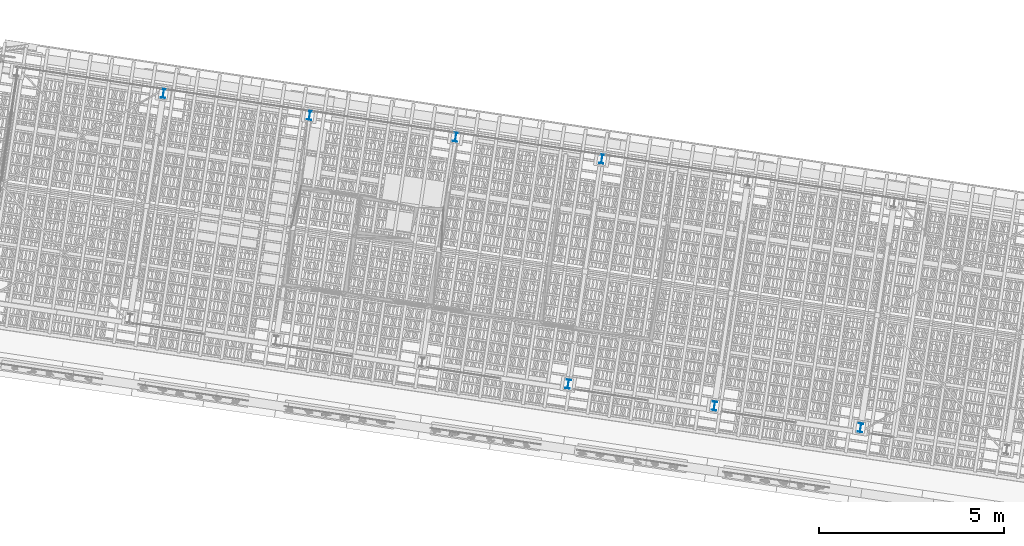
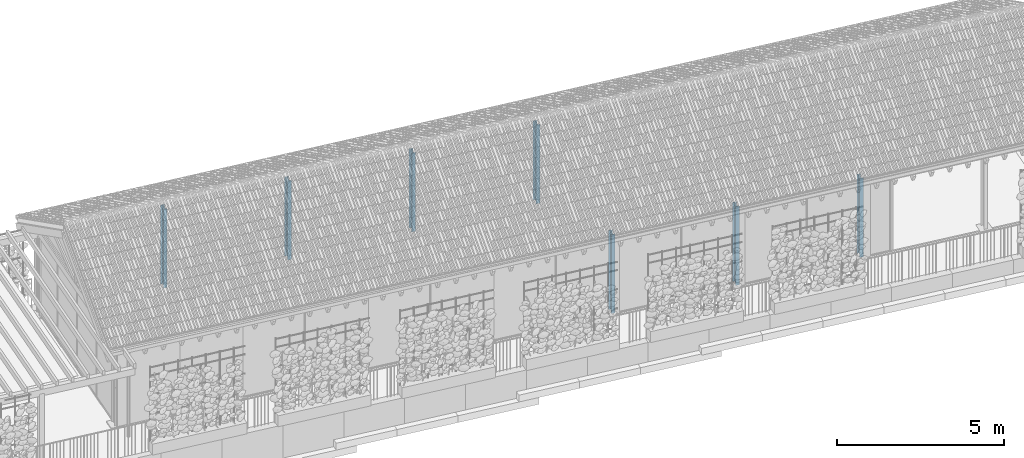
# One storey, part 3 of 128: 7 columns.
"""IFC4 building model written with IfcOpenShell, lengths in metres."""

from ifc_helpers import new_model, si_unit, direction, frame, origin_with_axes, place, context, subcontext, project, spatial, i_section, extrude, material, material_profile, profile_set, profile_usage, type_object, element, save


model = new_model("IFC4")

# Units and contexts
model_context = context("Model", 3, precision=1e-05, world=origin_with_axes(), true_north=direction((0.0, 1.0)))
body_context = subcontext(model_context, "Body", "Model", "MODEL_VIEW")
ifc_project = project(units=[si_unit("VOLUMEUNIT", "CUBIC_METRE"), si_unit("LENGTHUNIT", "METRE"), si_unit("AREAUNIT", "SQUARE_METRE")], contexts=[model_context])

# Site, building, storey
site_placement = place(None, origin_with_axes())
site = spatial("IfcSite", under=ifc_project, at=site_placement, Name="Lares · Rua das Mercês · artigo 4771")
building_placement = place(site_placement, frame((15.0, 9.7, 13.9), z_axis=(0.0, 0.0, 1.0), x_axis=(0.989015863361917, -0.147809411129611, 0.0)))
building = spatial("IfcBuilding", under=site, at=building_placement, Name="Casa Sobreposta")
storey_placement = place(building_placement, origin_with_axes())
storey = spatial("IfcBuildingStorey", under=building, at=storey_placement, Name="00 · Habitação e estacionamento", Elevation=13.9)

# Columns
ifc_material = material(Name="Aço pintado / Stahl lackiert", Category="steel")
ifc_material_profile = material_profile(ifc_material, i_section(OverallWidth=0.12, OverallDepth=0.24, WebThickness=0.0062, FlangeThickness=0.0098))
ifc_profile_set = profile_set([ifc_material_profile], Name="IPE240")
ifc_profile_usage_1 = profile_usage(ifc_profile_set)
column_type = type_object("IfcColumnType", Name="IPE240 / steel", PredefinedType="NOTDEFINED", material=ifc_profile_set)
column_1_placement = place(storey_placement, frame((4.0, 6.28, 0.0), z_axis=(0.0, 0.0, 1.0), x_axis=(1.0, 0.0, 0.0)))
element("IfcColumn", 1, at=column_1_placement, inside=storey, type_object=column_type, material=ifc_profile_usage_1, Name="Casa térrea · pilar metálico de referência", context=body_context, shape_type="SweptSolid", body=[
    extrude(i_section(OverallWidth=0.12, OverallDepth=0.24, WebThickness=0.0062, FlangeThickness=0.0098), origin_with_axes(), (0.0, 0.0, 1.0), 2.89),
])
ifc_profile_usage_2 = profile_usage(ifc_profile_set)
column_2_placement = place(storey_placement, frame((8.0, 6.28, 0.0), z_axis=(0.0, 0.0, 1.0), x_axis=(1.0, 0.0, 0.0)))
element("IfcColumn", 2, at=column_2_placement, inside=storey, type_object=column_type, material=ifc_profile_usage_2, Name="Casa térrea · pilar metálico de referência", context=body_context, shape_type="SweptSolid", body=[
    extrude(i_section(OverallWidth=0.12, OverallDepth=0.24, WebThickness=0.0062, FlangeThickness=0.0098), origin_with_axes(), (0.0, 0.0, 1.0), 2.89),
])
ifc_profile_usage_3 = profile_usage(ifc_profile_set)
column_3_placement = place(storey_placement, frame((12.0, 6.28, 0.0), z_axis=(0.0, 0.0, 1.0), x_axis=(1.0, 0.0, 0.0)))
element("IfcColumn", 3, at=column_3_placement, inside=storey, type_object=column_type, material=ifc_profile_usage_3, Name="Casa térrea · pilar metálico de referência", context=body_context, shape_type="SweptSolid", body=[
    extrude(i_section(OverallWidth=0.12, OverallDepth=0.24, WebThickness=0.0062, FlangeThickness=0.0098), origin_with_axes(), (0.0, 0.0, 1.0), 2.89),
])
ifc_profile_usage_4 = profile_usage(ifc_profile_set)
column_4_placement = place(storey_placement, frame((16.0, 0.12, 0.0), z_axis=(0.0, 0.0, 1.0), x_axis=(1.0, 0.0, 0.0)))
element("IfcColumn", 4, at=column_4_placement, inside=storey, type_object=column_type, material=ifc_profile_usage_4, Name="Casa térrea · pilar metálico de referência", context=body_context, shape_type="SweptSolid", body=[
    extrude(i_section(OverallWidth=0.12, OverallDepth=0.24, WebThickness=0.0062, FlangeThickness=0.0098), origin_with_axes(), (0.0, 0.0, 1.0), 2.89),
])
ifc_profile_usage_5 = profile_usage(ifc_profile_set)
column_5_placement = place(storey_placement, frame((16.0, 6.28, 0.0), z_axis=(0.0, 0.0, 1.0), x_axis=(1.0, 0.0, 0.0)))
element("IfcColumn", 5, at=column_5_placement, inside=storey, type_object=column_type, material=ifc_profile_usage_5, Name="Casa térrea · pilar metálico de referência", context=body_context, shape_type="SweptSolid", body=[
    extrude(i_section(OverallWidth=0.12, OverallDepth=0.24, WebThickness=0.0062, FlangeThickness=0.0098), origin_with_axes(), (0.0, 0.0, 1.0), 2.89),
])
ifc_profile_usage_6 = profile_usage(ifc_profile_set)
column_6_placement = place(storey_placement, frame((20.0, 0.12, 0.0), z_axis=(0.0, 0.0, 1.0), x_axis=(1.0, 0.0, 0.0)))
element("IfcColumn", 6, at=column_6_placement, inside=storey, type_object=column_type, material=ifc_profile_usage_6, Name="Casa térrea · pilar metálico de referência", context=body_context, shape_type="SweptSolid", body=[
    extrude(i_section(OverallWidth=0.12, OverallDepth=0.24, WebThickness=0.0062, FlangeThickness=0.0098), origin_with_axes(), (0.0, 0.0, 1.0), 2.89),
])
ifc_profile_usage_7 = profile_usage(ifc_profile_set)
column_7_placement = place(storey_placement, frame((24.0, 0.12, 0.0), z_axis=(0.0, 0.0, 1.0), x_axis=(1.0, 0.0, 0.0)))
element("IfcColumn", 7, at=column_7_placement, inside=storey, type_object=column_type, material=ifc_profile_usage_7, Name="Casa térrea · pilar metálico de referência", context=body_context, shape_type="SweptSolid", body=[
    extrude(i_section(OverallWidth=0.12, OverallDepth=0.24, WebThickness=0.0062, FlangeThickness=0.0098), origin_with_axes(), (0.0, 0.0, 1.0), 2.89),
])

save(model, "model.ifc")
